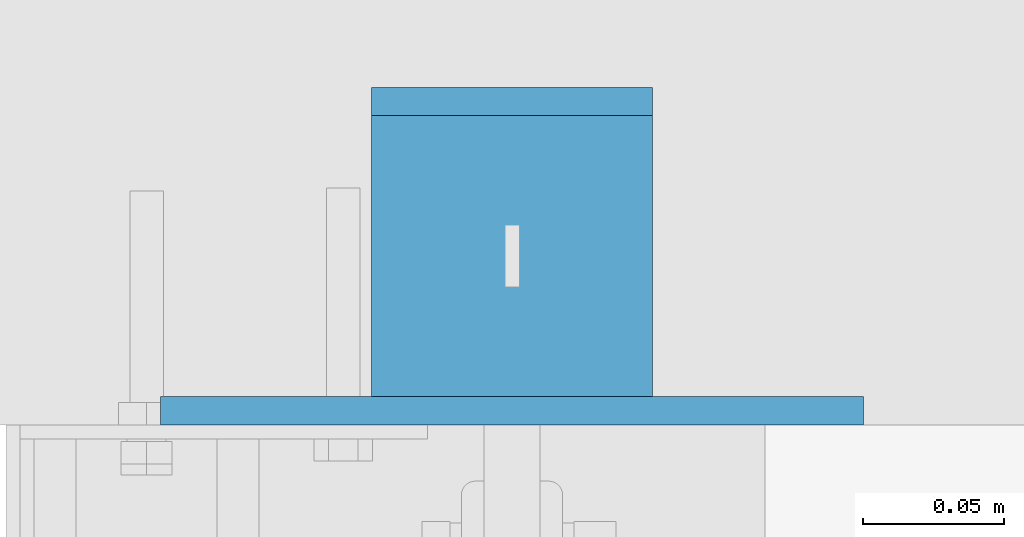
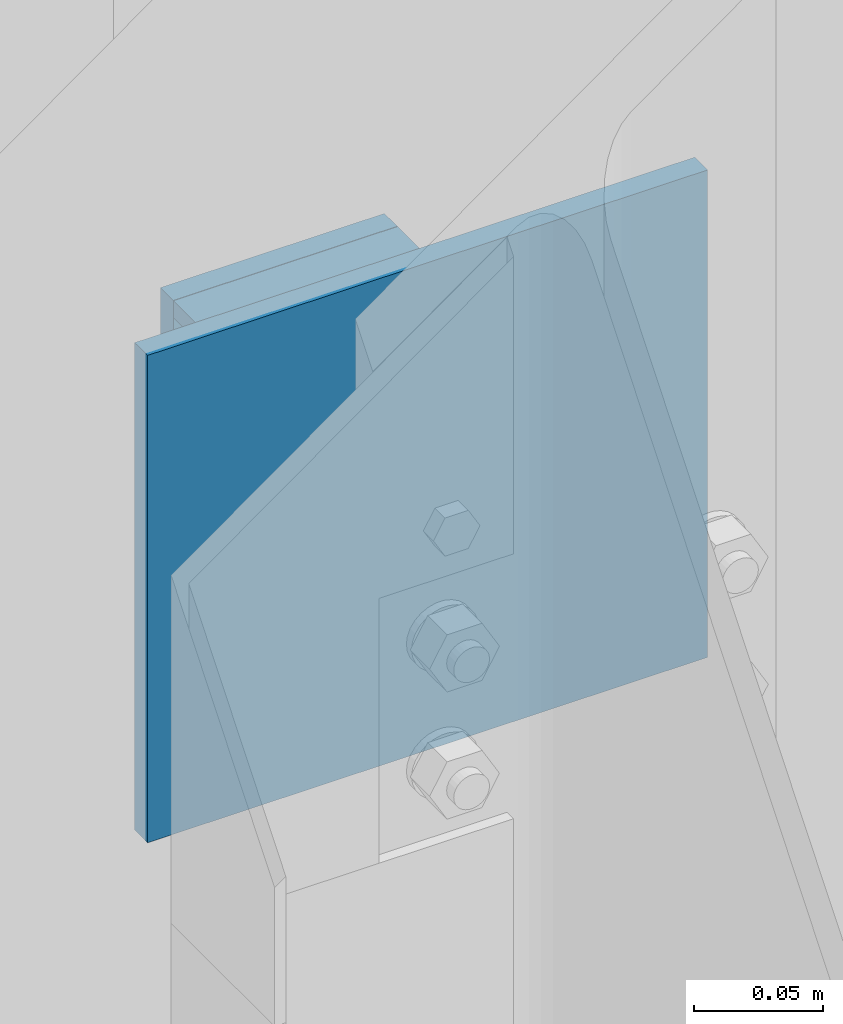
# One storey, part 95 of 362: 3 beams, 1 element without a shape of its own.
"""IFC2X3 building model written with IfcOpenShell, lengths in millimetres."""

from ifc_helpers import new_model, si_unit, frame, origin_with_axes, origin_2d_with_axis, place, context, subcontext, project, spatial, rectangle, i_section, extrude, material, type_object, element, aggregate, save


model = new_model("IFC2X3")

# Units and contexts
model_context = context("Model", 3, precision=1e-05, world=origin_with_axes())
body_context = subcontext(model_context, "Body", "Model", "MODEL_VIEW")
ifc_project = project(units=[si_unit("LENGTHUNIT", "METRE", prefix="MILLI"), si_unit("AREAUNIT", "SQUARE_METRE"), si_unit("VOLUMEUNIT", "CUBIC_METRE"), si_unit("MASSUNIT", "GRAM", prefix="KILO"), si_unit("TIMEUNIT", "SECOND"), si_unit("PLANEANGLEUNIT", "RADIAN"), si_unit("SOLIDANGLEUNIT", "STERADIAN"), si_unit("THERMODYNAMICTEMPERATUREUNIT", "DEGREE_CELSIUS"), si_unit("LUMINOUSINTENSITYUNIT", "LUMEN")], contexts=[model_context])

# Site, building, storey
site_placement = place(None, origin_with_axes())
site = spatial("IfcSite", under=ifc_project, at=site_placement, Name="Undefined", CompositionType="ELEMENT")
building_placement = place(site_placement, origin_with_axes())
building = spatial("IfcBuilding", under=site, at=building_placement, Name="Undefined", CompositionType="ELEMENT")
storey_placement = place(building_placement, origin_with_axes())
storey = spatial("IfcBuildingStorey", under=building, at=storey_placement, Name="Undefined", CompositionType="ELEMENT", Elevation=0.0)

# Assembly, beams
assembly_placement = place(storey_placement, origin_with_axes())
assembly = element("IfcElementAssembly", 1, at=assembly_placement, inside=storey, AssemblyPlace="NOTDEFINED", PredefinedType="NOTDEFINED")
ifc_material_1 = material(Name="Undefined/S235-E24")
beam_type_1 = type_object("IfcBeamType", Name="PL10*100", PredefinedType="NOTDEFINED")
beam_1_placement = place(assembly_placement, frame((0.0, 15505.0, 3363.0), z_axis=(-1.0, 0.0, 0.0), x_axis=(0.0, 0.0, -1.0)))
beam_1 = element("IfcBeam", 2, at=beam_1_placement, type_object=beam_type_1, material=ifc_material_1, Name="PLAT", ObjectType="PL10*100", context=body_context, shape_type="SweptSolid", body=[
    extrude(rectangle(XDim=10.0, YDim=100.0, at=origin_2d_with_axis()), frame((96.0, 0.0, 0.0), z_axis=(-1.0, 0.0, 0.0), x_axis=(0.0, -1.0, 0.0)), (0.0, 0.0, 1.0), 96.0),
])
ifc_material_2 = material(Name="Undefined/S275-E28")
beam_type_2 = type_object("IfcBeamType", Name="HEA100", PredefinedType="NOTDEFINED")
beam_2_placement = place(assembly_placement, frame((0.0, 15400.0, 3315.0), z_axis=(0.0, 0.0, 1.0), x_axis=(0.0, 1.0, 0.0)))
beam_2 = element("IfcBeam", 3, at=beam_2_placement, type_object=beam_type_2, material=ifc_material_2, Name="BECHE", ObjectType="HEA100", context=body_context, shape_type="SweptSolid", body=[
    extrude(i_section(OverallWidth=100.0, OverallDepth=96.0, WebThickness=5.0, FlangeThickness=8.0, FilletRadius=12.0, at=origin_2d_with_axis()), frame((99.9999999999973, -1.63709046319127e-11, 7.73070496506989e-12), z_axis=(-1.0, 0.0, 0.0), x_axis=(0.0, -1.0, 0.0)), (0.0, 0.0, 1.0), 100.0),
])
beam_type_3 = type_object("IfcBeamType", Name="PL10*250", PredefinedType="NOTDEFINED")
beam_3_placement = place(assembly_placement, frame((0.0, 15395.0, 3430.0), z_axis=(-1.0, 0.0, 0.0), x_axis=(0.0, 0.0, -1.0)))
beam_3 = element("IfcBeam", 4, at=beam_3_placement, type_object=beam_type_3, material=ifc_material_1, Name="PRESCELLEMENT", ObjectType="PL10*250", context=body_context, shape_type="SweptSolid", body=[
    extrude(rectangle(XDim=10.0, YDim=250.0, at=origin_2d_with_axis()), frame((230.0, 0.0, 0.0), z_axis=(-1.0, 0.0, 0.0), x_axis=(0.0, -1.0, 0.0)), (0.0, 0.0, 1.0), 230.0),
])
aggregate(assembly, [beam_1, beam_2, beam_3])

save(model, "model.ifc")
